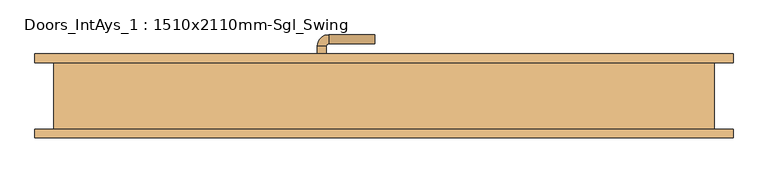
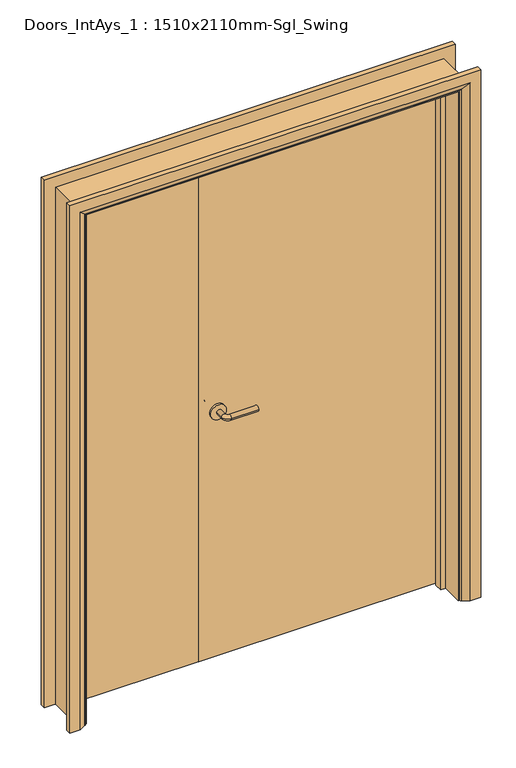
"""IFC4 building model written with IfcOpenShell, lengths in millimetres: door geometry, Doors_IntAys_1 : 1510x2110mm-Sgl_Swing."""

from ifc_helpers import new_model, si_unit, point, frame, frame_2d, origin, place, context, project, spatial, polyline, circle_curve, ellipse_curve, trimmed, segment, composite_curve, outline, extrude, faceted_brep, source, transform, mapped, element, save
from ifc_brep_helpers import plane_surface, cylinder_surface, revolved_surface, advanced_brep


def doors_intays_1_1510x2110mm_sgl_swing_c7e511a1(model_context):
    return source(origin(), model_context, "Body", "SolidModel", [
        advanced_brep(
        [(238.5, 35.0, 1000.0), (258.5, 35.0, 1000.0), (258.5, 5.0, 1000.0), (238.5, 5.0, 1000.0), (263.5, 0.0, 1000.0), (263.5, -20.0, 1000.0), (368.5, -20.0, 1000.0), (368.5, 0.0, 1000.0)],
        [
            (0, 1, circle_curve(frame((248.5, 35.0, 1000.0), z_axis=(0.0, 1.0, 0.0), x_axis=(1.0, 0.0, 0.0)), 10.0)),
            (1, 0, circle_curve(frame((248.5, 35.0, 1000.0), z_axis=(0.0, 1.0, 0.0), x_axis=(1.0, 0.0, 0.0)), 10.0)),
            (1, 2),
            (2, 3, circle_curve(frame((248.5, 5.0, 1000.0), z_axis=(0.0, 1.0, 0.0), x_axis=(1.0, 0.0, 0.0)), 10.0)),
            (3, 0),
            (3, 2, circle_curve(frame((248.5, 5.0, 1000.0), z_axis=(0.0, 1.0, 0.0), x_axis=(1.0, 0.0, 0.0)), 10.0)),
            (4, 5, circle_curve(frame((263.5, -10.0, 1000.0), z_axis=(-1.0, 0.0, 0.0), x_axis=(0.0, 1.0, 0.0)), 10.0)),
            (5, 3, circle_curve(frame((263.5, 5.0, 1000.0), z_axis=(0.0, 0.0, -1.0), x_axis=(-1.0, 0.0, 0.0)), 25.0)),
            (2, 4, circle_curve(frame((263.5, 5.0, 1000.0), z_axis=(0.0, 0.0, 1.0), x_axis=(-1.0, 0.0, 0.0)), 5.0)),
            (5, 4, circle_curve(frame((263.5, -10.0, 1000.0), z_axis=(-1.0, 0.0, 0.0), x_axis=(0.0, 1.0, 0.0)), 10.0)),
            (6, 7, circle_curve(frame((368.5, -10.0, 1000.0), z_axis=(1.0, 0.0, 0.0), x_axis=(0.0, 1.0, 0.0)), 10.0)),
            (7, 6, circle_curve(frame((368.5, -10.0, 1000.0), z_axis=(1.0, 0.0, 0.0), x_axis=(0.0, 1.0, 0.0)), 10.0)),
            (4, 7),
            (6, 5),
        ],
        [
            plane_surface(frame((248.5, 35.0, 1000.0), z_axis=(0.0, 1.0, 0.0), x_axis=(0.0, 0.0, 1.0))),
            cylinder_surface(frame((248.5, 35.0, 1000.0), z_axis=(0.0, 1.0, 0.0), x_axis=(1.0, 0.0, 0.0)), 10.0),
            revolved_surface(trimmed(ellipse_curve(frame((248.5, 5.0, 1000.0), z_axis=(0.0, -1.0, 0.0), x_axis=(1.0, 0.0, 0.0)), 10.0, 10.0), [point((238.5, 5.0, 1000.0))], [point((258.5, 5.0, 1000.0))], True, "CARTESIAN"), (263.5, 5.0, 1000.0), (0.0, 0.0, -1.0)),
            revolved_surface(trimmed(ellipse_curve(frame((248.5, 5.0, 1000.0), z_axis=(0.0, -1.0, 0.0), x_axis=(1.0, 0.0, 0.0)), 10.0, 10.0), [point((258.5, 5.0, 1000.0))], [point((238.5, 5.0, 1000.0))], True, "CARTESIAN"), (263.5, 5.0, 1000.0), (0.0, 0.0, -1.0)),
            plane_surface(frame((368.5, -10.0, 1000.0), z_axis=(1.0, 0.0, 0.0), x_axis=(0.0, 0.0, 1.0))),
            cylinder_surface(frame((263.5, -10.0, 1000.0), z_axis=(-1.0, 0.0, 0.0), x_axis=(0.0, 1.0, 0.0)), 10.0),
        ],
        [
            (0, [[1, 2]]),
            (1, [[3, 4, 5, -2]]),
            (1, [[-5, 6, -3, -1]]),
            (2, [[7, 8, -4, 9]]),
            (3, [[10, -9, -6, -8]]),
            (4, [[11, 12]]),
            (5, [[13, -11, 14, -7]]),
            (5, [[-14, -12, -13, -10]]),
        ],
    ),
        extrude(outline(composite_curve([segment(trimmed(circle_curve(frame_2d((1000.0, 246.0)), 30.0), [point((1000.0, 216.0))], [point((1000.0, 276.0))], False, "CARTESIAN"), True, "CONTINUOUS"), segment(trimmed(circle_curve(frame_2d((1000.0, 246.0)), 30.0), [point((1000.0, 276.0))], [point((1000.0, 216.0))], False, "CARTESIAN"), True, "CONTINUOUS")], self_intersect=False)), frame((0.0, 35.0, 0.0), z_axis=(0.0, 1.0, 0.0), x_axis=(0.0, 0.0, 1.0)), (0.0, 0.0, 1.0), 8.0),
        advanced_brep(
        [(238.5, 83.0, 1000.0), (258.5, 83.0, 1000.0), (238.5, 113.0, 1000.0), (258.5, 113.0, 1000.0), (263.5, 118.0, 1000.0), (263.5, 138.0, 1000.0), (368.5, 138.0, 1000.0), (368.5, 118.0, 1000.0)],
        [
            (0, 1, circle_curve(frame((248.5, 83.0, 1000.0), z_axis=(0.0, -1.0, 0.0), x_axis=(1.0, 0.0, 0.0)), 10.0)),
            (1, 0, circle_curve(frame((248.5, 83.0, 1000.0), z_axis=(0.0, -1.0, 0.0), x_axis=(1.0, 0.0, 0.0)), 10.0)),
            (0, 2),
            (2, 3, circle_curve(frame((248.5, 113.0, 1000.0), z_axis=(0.0, -1.0, 0.0), x_axis=(1.0, 0.0, 0.0)), 10.0)),
            (3, 1),
            (3, 2, circle_curve(frame((248.5, 113.0, 1000.0), z_axis=(0.0, -1.0, 0.0), x_axis=(1.0, 0.0, 0.0)), 10.0)),
            (4, 3, circle_curve(frame((263.5, 113.0, 1000.0), z_axis=(0.0, 0.0, 1.0), x_axis=(-1.0, 0.0, 0.0)), 5.0)),
            (2, 5, circle_curve(frame((263.5, 113.0, 1000.0), z_axis=(0.0, 0.0, -1.0), x_axis=(-1.0, 0.0, 0.0)), 25.0)),
            (5, 4, circle_curve(frame((263.5, 128.0, 1000.0), z_axis=(-1.0, 0.0, 0.0), x_axis=(0.0, -1.0, 0.0)), 10.0)),
            (4, 5, circle_curve(frame((263.5, 128.0, 1000.0), z_axis=(-1.0, 0.0, 0.0), x_axis=(0.0, -1.0, 0.0)), 10.0)),
            (6, 7, circle_curve(frame((368.5, 128.0, 1000.0), z_axis=(1.0, 0.0, 0.0), x_axis=(0.0, -1.0, 0.0)), 10.0)),
            (7, 6, circle_curve(frame((368.5, 128.0, 1000.0), z_axis=(1.0, 0.0, 0.0), x_axis=(0.0, -1.0, 0.0)), 10.0)),
            (5, 6),
            (7, 4),
        ],
        [
            plane_surface(frame((248.5, 83.0, 1000.0), z_axis=(0.0, -1.0, 0.0), x_axis=(0.0, 0.0, 1.0))),
            cylinder_surface(frame((248.5, 83.0, 1000.0), z_axis=(0.0, -1.0, 0.0), x_axis=(1.0, 0.0, 0.0)), 10.0),
            revolved_surface(trimmed(ellipse_curve(frame((248.5, 113.0, 1000.0), z_axis=(0.0, -1.0, 0.0), x_axis=(1.0, 0.0, 0.0)), 10.0, 10.0), [point((238.5, 113.0, 1000.0))], [point((258.5, 113.0, 1000.0))], True, "CARTESIAN"), (263.5, 113.0, 1000.0), (0.0, 0.0, -1.0)),
            revolved_surface(trimmed(ellipse_curve(frame((248.5, 113.0, 1000.0), z_axis=(0.0, -1.0, 0.0), x_axis=(1.0, 0.0, 0.0)), 10.0, 10.0), [point((258.5, 113.0, 1000.0))], [point((238.5, 113.0, 1000.0))], True, "CARTESIAN"), (263.5, 113.0, 1000.0), (0.0, 0.0, -1.0)),
            plane_surface(frame((368.5, 128.0, 1000.0), z_axis=(1.0, 0.0, 0.0), x_axis=(0.0, 0.0, 1.0))),
            cylinder_surface(frame((263.5, 128.0, 1000.0), z_axis=(-1.0, 0.0, 0.0), x_axis=(0.0, -1.0, 0.0)), 10.0),
        ],
        [
            (0, [[1, 2]]),
            (1, [[-1, 3, 4, 5]]),
            (1, [[-2, -5, 6, -3]]),
            (2, [[7, -4, 8, 9]]),
            (3, [[-8, -6, -7, 10]]),
            (4, [[11, 12]]),
            (5, [[-9, 13, -12, 14]]),
            (5, [[-10, -14, -11, -13]]),
        ],
    ),
        extrude(outline(composite_curve([segment(trimmed(circle_curve(frame_2d((1000.0, 246.0)), 30.0), [point((1000.0, 216.0))], [point((1000.0, 276.0))], False, "CARTESIAN"), True, "CONTINUOUS"), segment(trimmed(circle_curve(frame_2d((1000.0, 246.0)), 30.0), [point((1000.0, 276.0))], [point((1000.0, 216.0))], False, "CARTESIAN"), True, "CONTINUOUS")], self_intersect=False)), frame((0.0, 75.0, 0.0), z_axis=(0.0, 1.0, 0.0), x_axis=(0.0, 0.0, 1.0)), (0.0, 0.0, 1.0), 8.0),
        advanced_brep(
        [(-401.0, -95.0, 0.0), (-401.0, -75.0, 0.0), (-331.0, -75.0, 0.0), (-335.0, -81.0, 0.0), (-361.0, -95.0, 0.0), (-401.0, -95.0, 2145.0), (-401.0, -75.0, 2145.0), (1179.0, -75.0, 2145.0), (1179.0, -75.0, 0.0), (1109.0, -75.0, 0.0), (1109.0, -75.0, 2075.0), (-331.0, -75.0, 2075.0), (-335.0, -81.0, 2079.0), (-361.0, -95.0, 2105.0), (1139.0, -95.0, 2105.0), (1139.0, -95.0, 0.0), (1179.0, -95.0, 0.0), (1179.0, -95.0, 2145.0), (1113.0, -81.0, 0.0), (1113.0, -81.0, 2079.0)],
        [
            (0, 1),
            (1, 2),
            (2, 3, circle_curve(frame((-339.0, -74.0, 0.0), z_axis=(0.0, 0.0, -1.0), x_axis=(-1.0, 0.0, 0.0)), 8.0622577)),
            (3, 4),
            (4, 0),
            (0, 5),
            (5, 6),
            (6, 1),
            (6, 7),
            (7, 8),
            (8, 9),
            (9, 10),
            (10, 11),
            (11, 2),
            (11, 12, ellipse_curve(frame((-339.0, -74.0, 2083.0), z_axis=(-0.7071067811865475, 0.0, -0.7071067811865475), x_axis=(0.7071067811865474, 0.0, -0.7071067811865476)), 11.4017543, 8.0622577)),
            (12, 3),
            (12, 13),
            (13, 4),
            (13, 14),
            (14, 15),
            (15, 16),
            (16, 17),
            (17, 5),
            (7, 17),
            (16, 8),
            (15, 18),
            (18, 9, circle_curve(frame((1117.0, -74.0, 0.0), z_axis=(0.0, 0.0, -1.0), x_axis=(1.0, 0.0, 0.0)), 8.0622577)),
            (19, 10, ellipse_curve(frame((1117.0, -74.0, 2083.0), z_axis=(0.7071067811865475, 0.0, -0.7071067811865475), x_axis=(0.7071067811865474, 0.0, 0.7071067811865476)), 11.4017543, 8.0622577)),
            (18, 19),
            (14, 19),
            (19, 12),
        ],
        [
            plane_surface(frame((-331.0, -75.0, 0.0), z_axis=(0.0, 0.0, -1.0), x_axis=(0.0, -1.0, 0.0))),
            plane_surface(frame((-401.0, -95.0, 0.0), z_axis=(-1.0, 0.0, 0.0), x_axis=(0.0, 0.0, 1.0))),
            plane_surface(frame((-401.0, -75.0, 0.0), z_axis=(0.0, 1.0, 0.0), x_axis=(0.0, 0.0, 1.0))),
            cylinder_surface(frame((-339.0, -74.0, 0.0), z_axis=(0.0, 0.0, -1.0), x_axis=(-1.0, 0.0, 0.0)), 8.0622577),
            plane_surface(frame((-335.0, -81.0, 0.0), z_axis=(0.4740998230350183, -0.8804710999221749, 0.0), x_axis=(0.0, 0.0, 1.0))),
            plane_surface(frame((-361.0, -95.0, 0.0), z_axis=(0.0, -1.0, 0.0), x_axis=(0.0, 0.0, 1.0))),
            plane_surface(frame((1179.0, -95.0, 2145.0), z_axis=(1.0, 0.0, 0.0), x_axis=(0.0, 0.0, -1.0))),
            plane_surface(frame((1109.0, -75.0, 0.0), z_axis=(0.0, 0.0, -1.0), x_axis=(0.0, -1.0, 0.0))),
            cylinder_surface(frame((1117.0, -74.0, 2075.0), z_axis=(0.0, 0.0, 1.0), x_axis=(1.0, 0.0, 0.0)), 8.0622577),
            plane_surface(frame((1113.0, -81.0, 2079.0), z_axis=(-0.4740998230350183, -0.8804710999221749, 0.0), x_axis=(0.0, 0.0, -1.0))),
            plane_surface(frame((-401.0, -95.0, 2145.0), z_axis=(0.0, 0.0, 1.0), x_axis=(1.0, 0.0, 0.0))),
            cylinder_surface(frame((-331.0, -74.0, 2083.0), z_axis=(-1.0, 0.0, 0.0), x_axis=(0.0, 0.0, 1.0)), 8.0622577),
            plane_surface(frame((-335.0, -81.0, 2079.0), z_axis=(0.0, -0.8804710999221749, -0.4740998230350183), x_axis=(1.0, 0.0, 0.0))),
        ],
        [
            (0, [[1, 2, 3, 4, 5]]),
            (1, [[-1, 6, 7, 8]]),
            (2, [[-2, -8, 9, 10, 11, 12, 13, 14]]),
            (3, [[-3, -14, 15, 16]]),
            (4, [[-4, -16, 17, 18]]),
            (5, [[-5, -18, 19, 20, 21, 22, 23, -6]]),
            (6, [[24, -22, 25, -10]]),
            (7, [[-21, 26, 27, -11, -25]]),
            (8, [[28, -12, -27, 29]]),
            (9, [[30, -29, -26, -20]]),
            (10, [[-7, -23, -24, -9]]),
            (11, [[-15, -13, -28, 31]]),
            (12, [[-17, -31, -30, -19]]),
        ],
    ),
        advanced_brep(
        [(1179.0, 95.0, 0.0), (1179.0, 75.0, 0.0), (1109.0, 75.0, 0.0), (1113.0, 81.0, 0.0), (1139.0, 95.0, 0.0), (1179.0, 95.0, 2145.0), (1179.0, 75.0, 2145.0), (-401.0, 75.0, 2145.0), (-401.0, 75.0, 0.0), (-331.0, 75.0, 0.0), (-331.0, 75.0, 2075.0), (1109.0, 75.0, 2075.0), (1113.0, 81.0, 2079.0), (1139.0, 95.0, 2105.0), (-361.0, 95.0, 2105.0), (-361.0, 95.0, 0.0), (-401.0, 95.0, 0.0), (-401.0, 95.0, 2145.0), (-335.0, 81.0, 0.0), (-335.0, 81.0, 2079.0)],
        [
            (0, 1),
            (1, 2),
            (2, 3, circle_curve(frame((1117.0, 74.0, 0.0), z_axis=(0.0, 0.0, -1.0), x_axis=(1.0, 0.0, 0.0)), 8.0622577)),
            (3, 4),
            (4, 0),
            (0, 5),
            (5, 6),
            (6, 1),
            (6, 7),
            (7, 8),
            (8, 9),
            (9, 10),
            (10, 11),
            (11, 2),
            (11, 12, ellipse_curve(frame((1117.0, 74.0, 2083.0), z_axis=(0.7071067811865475, 0.0, -0.7071067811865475), x_axis=(-0.7071067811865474, 0.0, -0.7071067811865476)), 11.4017543, 8.0622577)),
            (12, 3),
            (12, 13),
            (13, 4),
            (13, 14),
            (14, 15),
            (15, 16),
            (16, 17),
            (17, 5),
            (7, 17),
            (16, 8),
            (15, 18),
            (18, 9, circle_curve(frame((-339.0, 74.0, 0.0), z_axis=(0.0, 0.0, -1.0), x_axis=(-1.0, 0.0, 0.0)), 8.0622577)),
            (19, 10, ellipse_curve(frame((-339.0, 74.0, 2083.0), z_axis=(-0.7071067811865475, 0.0, -0.7071067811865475), x_axis=(-0.7071067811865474, 0.0, 0.7071067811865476)), 11.4017543, 8.0622577)),
            (18, 19),
            (14, 19),
            (19, 12),
        ],
        [
            plane_surface(frame((1109.0, 75.0, 0.0), z_axis=(0.0, 0.0, -1.0), x_axis=(0.0, -1.0, 0.0))),
            plane_surface(frame((1179.0, 95.0, 0.0), z_axis=(1.0, 0.0, 0.0), x_axis=(0.0, 0.0, 1.0))),
            plane_surface(frame((1179.0, 75.0, 0.0), z_axis=(0.0, -1.0, 0.0), x_axis=(0.0, 0.0, 1.0))),
            cylinder_surface(frame((1117.0, 74.0, 0.0), z_axis=(0.0, 0.0, -1.0), x_axis=(1.0, 0.0, 0.0)), 8.0622577),
            plane_surface(frame((1113.0, 81.0, 0.0), z_axis=(-0.4740998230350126, 0.8804710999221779, 0.0), x_axis=(0.0, 0.0, 1.0))),
            plane_surface(frame((1139.0, 95.0, 0.0), z_axis=(0.0, 1.0, 0.0), x_axis=(0.0, 0.0, 1.0))),
            plane_surface(frame((-401.0, 95.0, 2145.0), z_axis=(-1.0, 0.0, 0.0), x_axis=(0.0, 0.0, -1.0))),
            plane_surface(frame((-331.0, 75.0, 0.0), z_axis=(0.0, 0.0, -1.0), x_axis=(0.0, -1.0, 0.0))),
            cylinder_surface(frame((-339.0, 74.0, 2075.0), z_axis=(0.0, 0.0, 1.0), x_axis=(-1.0, 0.0, 0.0)), 8.0622577),
            plane_surface(frame((-335.0, 81.0, 2079.0), z_axis=(0.4740998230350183, 0.8804710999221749, 0.0), x_axis=(0.0, 0.0, -1.0))),
            plane_surface(frame((1179.0, 95.0, 2145.0), z_axis=(0.0, 0.0, 1.0), x_axis=(-1.0, 0.0, 0.0))),
            cylinder_surface(frame((1109.0, 74.0, 2083.0), z_axis=(1.0, 0.0, 0.0), x_axis=(0.0, 0.0, 1.0)), 8.0622577),
            plane_surface(frame((1113.0, 81.0, 2079.0), z_axis=(0.0, 0.8804710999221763, -0.4740998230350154), x_axis=(-1.0, 0.0, 0.0))),
        ],
        [
            (0, [[1, 2, 3, 4, 5]]),
            (1, [[-1, 6, 7, 8]]),
            (2, [[-2, -8, 9, 10, 11, 12, 13, 14]]),
            (3, [[-3, -14, 15, 16]]),
            (4, [[-4, -16, 17, 18]]),
            (5, [[-5, -18, 19, 20, 21, 22, 23, -6]]),
            (6, [[24, -22, 25, -10]]),
            (7, [[-21, 26, 27, -11, -25]]),
            (8, [[28, -12, -27, 29]]),
            (9, [[30, -29, -26, -20]]),
            (10, [[-7, -23, -24, -9]]),
            (11, [[-15, -13, -28, 31]]),
            (12, [[-17, -31, -30, -19]]),
        ],
    ),
        faceted_brep([(-307.0, 40.0, 0.0), (-307.0, 8.0, 0.0), (-326.0, 8.0, 0.0), (-326.0, 40.0, 0.0), (-307.0, 40.0, 2051.0), (-307.0, 8.0, 2051.0), (-326.0, 8.0, 2070.0), (-326.0, 40.0, 2070.0), (1085.0, 40.0, 0.0), (1104.0, 40.0, 0.0), (1104.0, 8.0, 0.0), (1085.0, 8.0, 0.0), (1085.0, 40.0, 2051.0), (1104.0, 40.0, 2070.0), (1104.0, 8.0, 2070.0), (1085.0, 8.0, 2051.0)], [[[0, 1, 2, 3]], [[1, 0, 4, 5]], [[2, 1, 5, 6]], [[3, 2, 6, 7]], [[0, 3, 7, 4]], [[8, 9, 10, 11]], [[12, 13, 9, 8]], [[13, 14, 10, 9]], [[14, 15, 11, 10]], [[15, 12, 8, 11]], [[5, 4, 12, 15]], [[6, 5, 15, 14]], [[7, 6, 14, 13]], [[4, 7, 13, 12]]]),
        extrude(outline(polyline([(2102.0, -358.0), (0.0, -358.0), (0.0, -326.0), (2070.0, -326.0), (2070.0, 1104.0), (0.0, 1104.0), (0.0, 1136.0), (2102.0, 1136.0), (2102.0, -358.0)])), frame((0.0, -75.0, 0.0), z_axis=(0.0, 1.0, 0.0), x_axis=(0.0, 0.0, 1.0)), (0.0, 0.0, 1.0), 150.0),
        extrude(outline(polyline([(172.0, 43.0), (-323.0, 43.0), (-323.0, 75.0), (172.0, 75.0), (172.0, 43.0)])), frame((0.0, 0.0, 5.753223), z_axis=(0.0, 0.0, 1.0), x_axis=(1.0, 0.0, 0.0)), (0.0, 0.0, 1.0), 2061.246777),
        extrude(outline(polyline([(1101.0, 43.0), (175.0, 43.0), (175.0, 75.0), (1101.0, 75.0), (1101.0, 43.0)])), frame((0.0, 0.0, 5.753223), z_axis=(0.0, 0.0, 1.0), x_axis=(1.0, 0.0, 0.0)), (0.0, 0.0, 1.0), 2061.246777),
    ])


if __name__ == "__main__":
    model = new_model("IFC4")
    model_context = context("Model", 3, world=origin())
    ifc_project = project(units=[si_unit("LENGTHUNIT", "METRE", prefix="MILLI")], contexts=[model_context])
    site = spatial("IfcSite", under=ifc_project)
    building = spatial("IfcBuilding", under=site)
    placement = place(None, origin())
    doors_intays_1_1510x2110mm_sgl_swing_shape = doors_intays_1_1510x2110mm_sgl_swing_c7e511a1(model_context)
    element("IfcDoor", 1, ObjectType="Doors_IntAys_1 : 1510x2110mm-Sgl_Swing", at=placement, inside=building, context=model_context, shape_type="MappedRepresentation", body=[
        mapped(doors_intays_1_1510x2110mm_sgl_swing_shape, transform((0.0, 0.0, 0.0), x_axis=(1.0, 0.0, 0.0), y_axis=(0.0, 1.0, 0.0), z_axis=(0.0, 0.0, 1.0))),
    ])
    save(model, "model.ifc")
